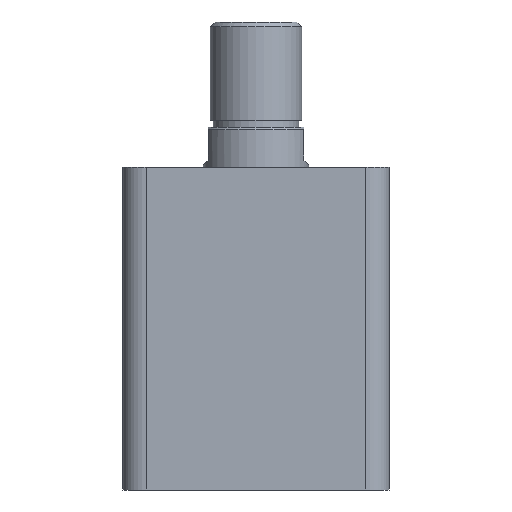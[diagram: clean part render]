
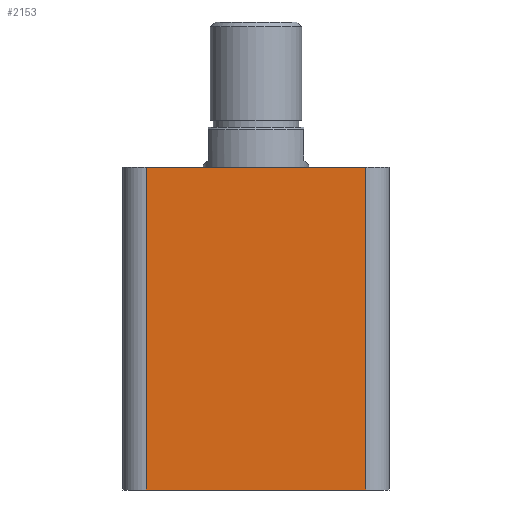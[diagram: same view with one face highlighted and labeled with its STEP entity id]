
A CAD part, front view. The second image highlights one B-rep face of the part: STEP entity #2153.
In plain terms, the highlighted planar face has unit normal (0, -1, 0).
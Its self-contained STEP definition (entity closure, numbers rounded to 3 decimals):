
#58 = ORIENTED_EDGE ( 'NONE', *, *, #750, .T. ) ;
#87 = CARTESIAN_POINT ( 'NONE',  ( -47., -57., 0. ) ) ;
#117 = VERTEX_POINT ( 'NONE', #87 ) ;
#199 = VERTEX_POINT ( 'NONE', #499 ) ;
#200 = VERTEX_POINT ( 'NONE', #500 ) ;
#202 = VERTEX_POINT ( 'NONE', #502 ) ;
#225 = ORIENTED_EDGE ( 'NONE', *, *, #749, .F. ) ;
#226 = ORIENTED_EDGE ( 'NONE', *, *, #748, .T. ) ;
#227 = ORIENTED_EDGE ( 'NONE', *, *, #747, .T. ) ;
#499 = CARTESIAN_POINT ( 'NONE',  ( 47., -57., 138. ) ) ;
#500 = CARTESIAN_POINT ( 'NONE',  ( -47., -57., 138. ) ) ;
#502 = CARTESIAN_POINT ( 'NONE',  ( 47., -57., 0. ) ) ;
#599 = CARTESIAN_POINT ( 'NONE',  ( 47., -57., 138. ) ) ;
#620 = CARTESIAN_POINT ( 'NONE',  ( -57., -57., 0. ) ) ;
#621 = DIRECTION ( 'NONE',  ( 1., 0., 0. ) ) ;
#622 = DIRECTION ( 'NONE',  ( 0., 0., 1. ) ) ;
#623 = CARTESIAN_POINT ( 'NONE',  ( -57., -57., 138. ) ) ;
#624 = DIRECTION ( 'NONE',  ( 1., 0., 0. ) ) ;
#625 = CARTESIAN_POINT ( 'NONE',  ( -47., -57., 138. ) ) ;
#626 = DIRECTION ( 'NONE',  ( 0., 0., -1. ) ) ;
#747 = EDGE_CURVE ( 'NONE', #117, #202, #860, .T. ) ;
#748 = EDGE_CURVE ( 'NONE', #202, #199, #854, .T. ) ;
#749 = EDGE_CURVE ( 'NONE', #200, #199, #864, .T. ) ;
#750 = EDGE_CURVE ( 'NONE', #200, #117, #866, .T. ) ;
#854 = LINE ( 'NONE', #599, #865 ) ;
#860 = LINE ( 'NONE', #620, #863 ) ;
#863 = VECTOR ( 'NONE', #621, 1000. ) ;
#864 = LINE ( 'NONE', #623, #867 ) ;
#865 = VECTOR ( 'NONE', #622, 1000. ) ;
#866 = LINE ( 'NONE', #625, #869 ) ;
#867 = VECTOR ( 'NONE', #624, 1000. ) ;
#869 = VECTOR ( 'NONE', #626, 1000. ) ;
#981 = FACE_OUTER_BOUND ( 'NONE', #1388, .T. ) ;
#1315 = CARTESIAN_POINT ( 'NONE',  ( -57., -57., 138. ) ) ;
#1317 = PLANE ( 'NONE',  #2377 ) ;
#1319 = DIRECTION ( 'NONE',  ( 0., 1., 0. ) ) ;
#1320 = DIRECTION ( 'NONE',  ( 0., 0., 1. ) ) ;
#1388 = EDGE_LOOP ( 'NONE', ( #227, #226, #225, #58 ) ) ;
#2153 = ADVANCED_FACE ( 'NONE', ( #981 ), #1317, .F. ) ;
#2377 = AXIS2_PLACEMENT_3D ( 'NONE', #1315, #1319, #1320 ) ;
